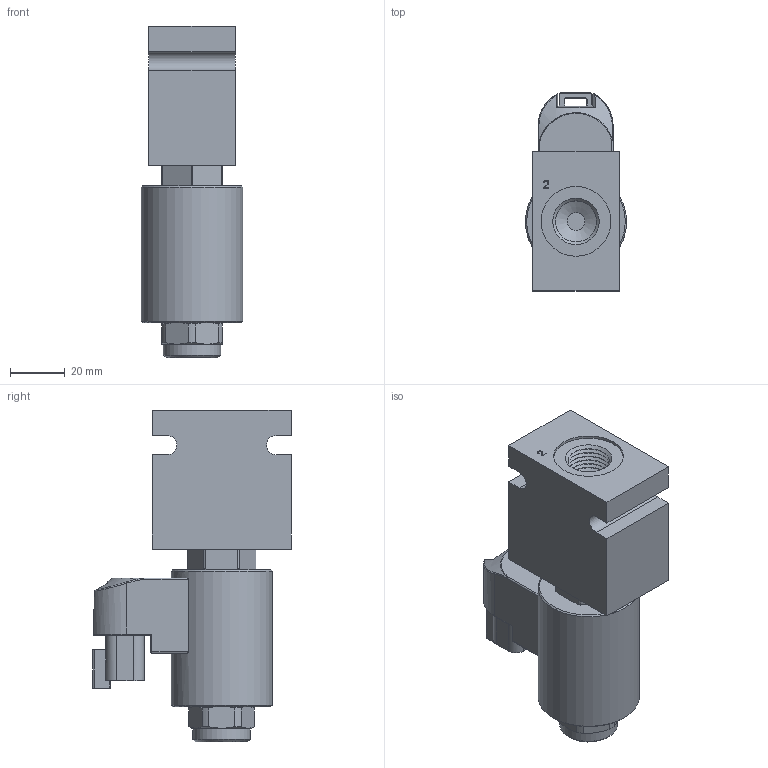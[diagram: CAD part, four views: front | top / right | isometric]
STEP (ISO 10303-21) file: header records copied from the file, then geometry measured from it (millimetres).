
FILE_DESCRIPTION( ( 'Unknown' ), '1' );
FILE_NAME( 'G:/Graphic Design/Graphic Design 2/Data Sheets/PROPORTIONAL CONTROLS/2_STEP/EB-P2A-B2.stp', 'Unknown', ( 'Unknown' ), ( 'Unknown' ), 'PSStep 17.0.49', 'Unknown', ' ' );
FILE_SCHEMA( ( 'AUTOMOTIVE_DESIGN { 1 0 10303 214 1 1 1 1 }' ) );
Length unit declared in the file: millimetre
Products named in the file (6): Assem1; EB-P2A; B-D-PB-B2A
Assembly tree (5 placements, depth 2):
  Assem1
    EB-P2A
    EB-P2A
    EB-P2A
    EB-P2A
    B-D-PB-B2A
Bounding box: 37 x 72.5 x 121.3 mm (x, y, z)
Volume: 63877.7 mm3; surface area: 32862.3 mm2
Topology: 2 solids, 225 shells, 311 faces, 1253 edges, 1127 vertices
Faces by surface type: plane 97, cylinder 92, cone 87, torus 19, sphere 8, bspline 4, extrusion 4
Full cylindrical faces by diameter (mm): 1.8 x2, 4.9 x4, 9.9 x1, 12.6 x4, 12.7 x1, 13.8 x2, 14.75 x2, 15 x2, 15.85 x2, 16.75 x1, 17.45 x1, 19.05 x1, 21 x1, 22 x1, 25.5 x1, 30.18 x1, 37 x1
Entity records: 19833 total; most frequent: CARTESIAN_POINT 8528, DIRECTION 1539, ORIENTED_EDGE 1324, EDGE_CURVE 1154, VERTEX_POINT 1115, AXIS2_PLACEMENT_3D 570, B_SPLINE_CURVE_WITH_KNOTS 502, EDGE_LOOP 413
